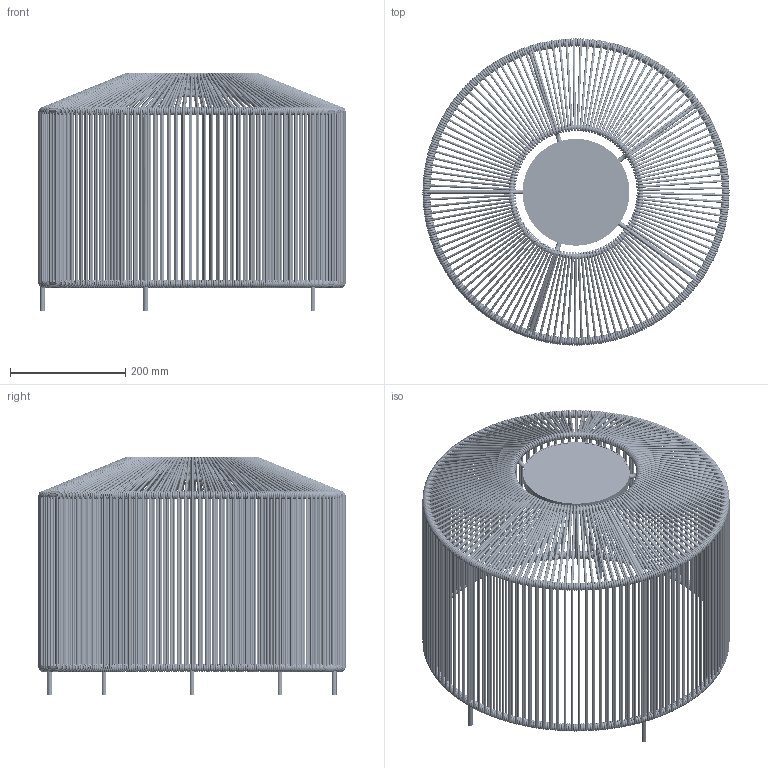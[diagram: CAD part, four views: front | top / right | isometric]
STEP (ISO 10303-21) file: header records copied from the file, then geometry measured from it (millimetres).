
FILE_DESCRIPTION(/* description */ (''),/* implementation_level */ '2;1');
FILE_NAME(/* name */ 'U:/01 COLLECTIE/02 OUTDOOR/01 Producten/Mora collection/3D/Vincentsheppard_Mora_Lamp42cmHx54cmD.step',/* time_stamp */ '2021-11-24T10:07:56+01:00',/* author */ (''),/* organization */ (''),/* preprocessor_version */ 'ST-DEVELOPER v18.1',/* originating_system */ 'Autodesk Translation Framework v10.10.0.1391',/* authorisation */ '');
FILE_SCHEMA (('AUTOMOTIVE_DESIGN { 1 0 10303 214 3 1 1 }'));
Products named in the file (1): Vincentsheppard_Mora_Lamp42cmHx54cmD
Bounding box: 533.99 x 533.98 x 414.99 mm (x, y, z)
Volume: 3044542.2 mm3; surface area: 2169699.6 mm2
Topology: 1488 solids, 1488 shells, 2610 faces, 3605 edges, 2103 vertices
Faces by surface type: plane 1073, torus 977, cylinder 560
Full cylindrical faces by diameter (mm): 4 x532, 8 x25, 160 x1, 182 x1, 186 x1
Entity records: 59313 total; most frequent: DIRECTION 11732, CARTESIAN_POINT 9949, ORIENTED_EDGE 7210, AXIS2_PLACEMENT_3D 5586, EDGE_CURVE 3605, CIRCLE 2975, EDGE_LOOP 2612, FACE_OUTER_BOUND 2610
